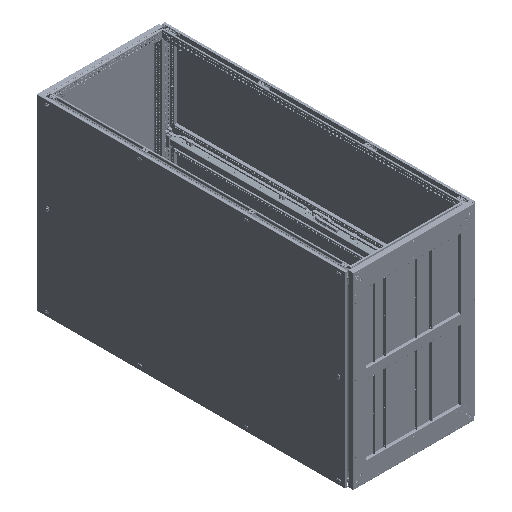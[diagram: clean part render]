
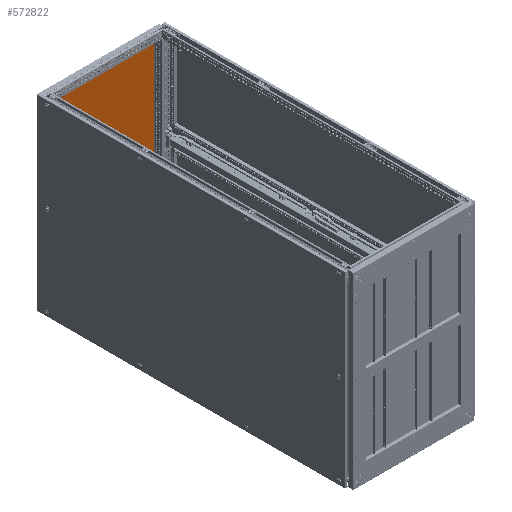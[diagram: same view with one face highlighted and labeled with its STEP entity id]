
A CAD part, isometric view. The second image highlights one B-rep face of the part: STEP entity #572822.
In plain terms, the highlighted planar face has unit normal (0, -1, 0).
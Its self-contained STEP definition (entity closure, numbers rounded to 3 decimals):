
#25137 = EDGE_CURVE ( 'NONE', #155627, #361425, #531981, .T. ) ;
#73158 = ORIENTED_EDGE ( 'NONE', *, *, #105317, .T. ) ;
#77155 = VERTEX_POINT ( 'NONE', #148450 ) ;
#78805 = LINE ( 'NONE', #718515, #249791 ) ;
#80333 = EDGE_CURVE ( 'NONE', #77155, #650418, #340208, .T. ) ;
#85452 = AXIS2_PLACEMENT_3D ( 'NONE', #590574, #189226, #302809 ) ;
#89537 = CARTESIAN_POINT ( 'NONE',  ( -550.01, 0., 345. ) ) ;
#104443 = LINE ( 'NONE', #89537, #462359 ) ;
#105317 = EDGE_CURVE ( 'NONE', #448440, #650418, #671212, .T. ) ;
#139534 = EDGE_LOOP ( 'NONE', ( #73158, #275868, #562350, #220275, #196006, #512414, #432757, #550157 ) ) ;
#148450 = CARTESIAN_POINT ( 'NONE',  ( 545.01, 0., -350. ) ) ;
#151616 = DIRECTION ( 'NONE',  ( 0., -1., 0. ) ) ;
#155627 = VERTEX_POINT ( 'NONE', #738622 ) ;
#157313 = CARTESIAN_POINT ( 'NONE',  ( 545.01, 0., -345. ) ) ;
#157463 = DIRECTION ( 'NONE',  ( 0., 0., -1. ) ) ;
#161571 = CARTESIAN_POINT ( 'NONE',  ( -545.01, 0., -350. ) ) ;
#189226 = DIRECTION ( 'NONE',  ( 0., 1., 0. ) ) ;
#194363 = CARTESIAN_POINT ( 'NONE',  ( 545.01, 0., 350. ) ) ;
#196006 = ORIENTED_EDGE ( 'NONE', *, *, #341652, .T. ) ;
#205518 = AXIS2_PLACEMENT_3D ( 'NONE', #242704, #348903, #352627 ) ;
#220275 = ORIENTED_EDGE ( 'NONE', *, *, #361292, .T. ) ;
#221072 = DIRECTION ( 'NONE',  ( 0., -1., 0. ) ) ;
#222949 = DIRECTION ( 'NONE',  ( -1., 0., 0. ) ) ;
#228770 = AXIS2_PLACEMENT_3D ( 'NONE', #157313, #452584, #566200 ) ;
#242223 = VERTEX_POINT ( 'NONE', #345417 ) ;
#242704 = CARTESIAN_POINT ( 'NONE',  ( -545.01, 0., 345. ) ) ;
#249791 = VECTOR ( 'NONE', #260402, 1000. ) ;
#260402 = DIRECTION ( 'NONE',  ( 0., 0., 1. ) ) ;
#275340 = CARTESIAN_POINT ( 'NONE',  ( -550.01, 0., 345. ) ) ;
#275868 = ORIENTED_EDGE ( 'NONE', *, *, #80333, .F. ) ;
#300528 = CARTESIAN_POINT ( 'NONE',  ( 550.01, 0., 345. ) ) ;
#302809 = DIRECTION ( 'NONE',  ( 0., 0., 1. ) ) ;
#318318 = CARTESIAN_POINT ( 'NONE',  ( 545.01, 0., 345. ) ) ;
#340208 = LINE ( 'NONE', #624224, #738452 ) ;
#341652 = EDGE_CURVE ( 'NONE', #508417, #242223, #472411, .T. ) ;
#345417 = CARTESIAN_POINT ( 'NONE',  ( 545.01, 0., 350. ) ) ;
#348903 = DIRECTION ( 'NONE',  ( 0., -1., 0. ) ) ;
#352627 = DIRECTION ( 'NONE',  ( 0., 0., -1. ) ) ;
#361292 = EDGE_CURVE ( 'NONE', #573343, #508417, #78805, .T. ) ;
#361425 = VERTEX_POINT ( 'NONE', #275340 ) ;
#410280 = CIRCLE ( 'NONE', #228770, 5. ) ;
#417720 = AXIS2_PLACEMENT_3D ( 'NONE', #675435, #221072, #448231 ) ;
#432757 = ORIENTED_EDGE ( 'NONE', *, *, #25137, .T. ) ;
#434312 = EDGE_CURVE ( 'NONE', #361425, #448440, #104443, .T. ) ;
#448231 = DIRECTION ( 'NONE',  ( 0., 0., -1. ) ) ;
#448440 = VERTEX_POINT ( 'NONE', #563775 ) ;
#452584 = DIRECTION ( 'NONE',  ( 0., -1., 0. ) ) ;
#462359 = VECTOR ( 'NONE', #157463, 1000. ) ;
#472411 = CIRCLE ( 'NONE', #653980, 5. ) ;
#499994 = DIRECTION ( 'NONE',  ( 0., 0., -1. ) ) ;
#508417 = VERTEX_POINT ( 'NONE', #300528 ) ;
#512414 = ORIENTED_EDGE ( 'NONE', *, *, #586967, .T. ) ;
#531981 = CIRCLE ( 'NONE', #205518, 5. ) ;
#550157 = ORIENTED_EDGE ( 'NONE', *, *, #434312, .T. ) ;
#562350 = ORIENTED_EDGE ( 'NONE', *, *, #570599, .T. ) ;
#563775 = CARTESIAN_POINT ( 'NONE',  ( -550.01, 0., -345. ) ) ;
#566200 = DIRECTION ( 'NONE',  ( 0., 0., -1. ) ) ;
#570599 = EDGE_CURVE ( 'NONE', #77155, #573343, #410280, .T. ) ;
#572822 = ADVANCED_FACE ( 'NONE', ( #666003 ), #707869, .F. ) ;
#573343 = VERTEX_POINT ( 'NONE', #593430 ) ;
#586967 = EDGE_CURVE ( 'NONE', #242223, #155627, #713005, .T. ) ;
#590574 = CARTESIAN_POINT ( 'NONE',  ( -587.7, 0., -382.5 ) ) ;
#593430 = CARTESIAN_POINT ( 'NONE',  ( 550.01, 0., -345. ) ) ;
#624224 = CARTESIAN_POINT ( 'NONE',  ( 545.01, 0., -350. ) ) ;
#650418 = VERTEX_POINT ( 'NONE', #161571 ) ;
#653980 = AXIS2_PLACEMENT_3D ( 'NONE', #318318, #151616, #499994 ) ;
#666003 = FACE_OUTER_BOUND ( 'NONE', #139534, .T. ) ;
#671212 = CIRCLE ( 'NONE', #417720, 5. ) ;
#675435 = CARTESIAN_POINT ( 'NONE',  ( -545.01, 0., -345. ) ) ;
#690981 = VECTOR ( 'NONE', #705530, 1000. ) ;
#705530 = DIRECTION ( 'NONE',  ( -1., 0., 0. ) ) ;
#707869 = PLANE ( 'NONE',  #85452 ) ;
#713005 = LINE ( 'NONE', #194363, #690981 ) ;
#718515 = CARTESIAN_POINT ( 'NONE',  ( 550.01, 0., -345. ) ) ;
#738452 = VECTOR ( 'NONE', #222949, 1000. ) ;
#738622 = CARTESIAN_POINT ( 'NONE',  ( -545.01, 0., 350. ) ) ;
